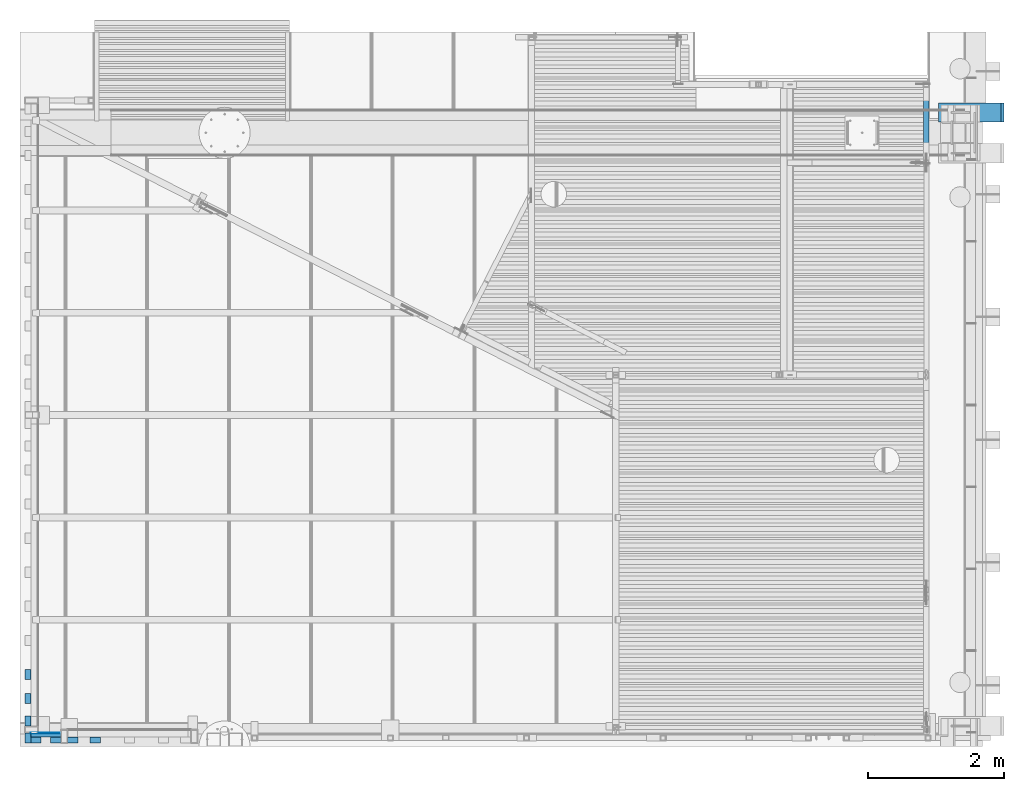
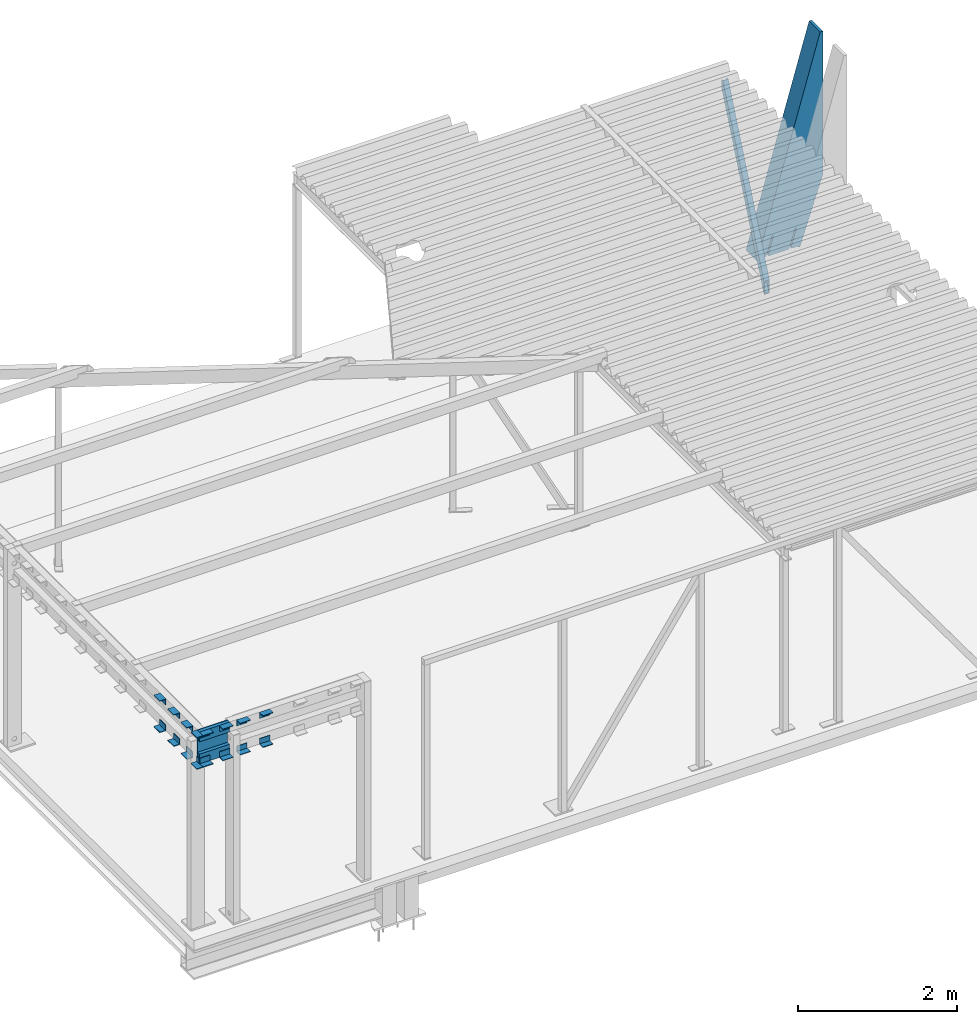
# One storey, part 15 of 30: 20 beams, 1 member.
"""IFC2X3 building model written with IfcOpenShell, lengths in millimetres."""

from ifc_helpers import new_model, entity, si_unit, converted_unit, derived_unit, direction, frame, origin_with_axes, place, context, subcontext, project, spatial, faceted_brep, material, type_object, element, save


model = new_model("IFC2X3")

# Units and contexts
model_context = context("Model", 3, precision=0.01, world=frame((0.0, 4.29681676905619e-09, 0.0)), true_north=direction((4.01073788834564e-13, 1.0)))
plan_context = context("Plan", 3, precision=0.01, world=frame((0.0, 4.29681676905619e-09, 0.0)), true_north=direction((4.01073788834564e-13, 1.0)))
body_context = subcontext(model_context, "Body", "Model", "MODEL_VIEW")
ifc_project = project(units=[converted_unit("PLANEANGLEUNIT", "DEGREE", entity("IfcPositiveLengthMeasure", 0.0174532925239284), si_unit("PLANEANGLEUNIT", "RADIAN"), dimensions=[0, 0, 0, 0, 0, 0, 0]), si_unit("AREAUNIT", "SQUARE_METRE"), si_unit("LENGTHUNIT", "METRE", prefix="MILLI"), si_unit("MASSUNIT", "GRAM", prefix="KILO"), si_unit("POWERUNIT", "WATT"), si_unit("PRESSUREUNIT", "PASCAL"), si_unit("FORCEUNIT", "NEWTON", prefix="KILO"), si_unit("ELECTRICVOLTAGEUNIT", "VOLT"), si_unit("ELECTRICCURRENTUNIT", "AMPERE"), si_unit("THERMODYNAMICTEMPERATUREUNIT", "DEGREE_CELSIUS"), si_unit("TIMEUNIT", "SECOND"), si_unit("VOLUMEUNIT", "CUBIC_METRE"), derived_unit("LINEARVELOCITYUNIT", [(si_unit("LENGTHUNIT", "METRE"), 1), (si_unit("TIMEUNIT", "SECOND"), -1)]), derived_unit("VOLUMETRICFLOWRATEUNIT", [(si_unit("VOLUMEUNIT", "CUBIC_METRE"), 1), (si_unit("TIMEUNIT", "SECOND"), -1)]), derived_unit("THERMALTRANSMITTANCEUNIT", [(si_unit("POWERUNIT", "WATT"), 1), (si_unit("THERMODYNAMICTEMPERATUREUNIT", "KELVIN"), -1), (si_unit("AREAUNIT", "SQUARE_METRE"), -1)]), derived_unit("SOUNDPRESSUREUNIT", [(si_unit("PRESSUREUNIT", "PASCAL"), 1)])], contexts=[model_context, plan_context])

# Site, building, storey
site_placement = place(None, frame((0.0, -4.29681676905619e-09, 0.0), z_axis=(0.0, 0.0, 1.0), x_axis=(1.0, 0.0, 0.0)))
site = spatial("IfcSite", under=ifc_project, at=site_placement, Name="Gardermoen", CompositionType="ELEMENT")
building_placement = place(site_placement, frame((0.0, 4.29681676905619e-09, 0.0), z_axis=(0.0, 0.0, 1.0), x_axis=(1.0, 0.0, 0.0)))
building = spatial("IfcBuilding", under=site, at=building_placement, Name="TI", CompositionType="ELEMENT")
storey_placement = place(building_placement, origin_with_axes())
storey = spatial("IfcBuildingStorey", under=building, at=storey_placement, Name="F", CompositionType="ELEMENT", Elevation=0.0)

# Beams
beam_type_1 = type_object("IfcBeamType", Name="PL280*4267", PredefinedType="NOTDEFINED")
beam_1_placement = place(storey_placement, frame((611580.926887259, 698299.999863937, 220824.676036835), z_axis=(0.730066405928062, 0.0, 0.683376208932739), x_axis=(0.683376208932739, 0.0, -0.730066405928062)))
element("IfcBeam", 1, at=beam_1_placement, inside=storey, type_object=beam_type_1, Name="TREBJELKE", ObjectType="PL280*4267", context=body_context, shape_type="Brep", body=[
    faceted_brep([(7390.09727369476, 12.4996687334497, -6451.60250179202), (7199.64235973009, 12.4996687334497, -6655.06983461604), (7181.80062851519, 12.4996687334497, -6653.08312884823), (7163.00325317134, 12.4996687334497, -6621.04594817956), (7373.96174574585, 12.4996687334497, -6395.6741742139), (7392.75664105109, 12.4996687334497, -6427.71400436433), (7163.00325317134, -12.5003312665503, -6621.04594817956), (7373.96174574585, -12.5003312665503, -6395.6741742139), (7181.80062851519, -12.5003312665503, -6653.08312884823), (7199.64235973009, -12.5003312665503, -6655.06983461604), (7390.09727369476, -12.5003312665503, -6451.60250179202), (7392.75664105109, -12.5003312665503, -6427.71400436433), (7501.75748012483, -140.0, -6332.31335397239), (7501.75748012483, 119.957864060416, -6332.31335397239), (7427.70337700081, 119.957864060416, -6411.42704305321), (7427.70337700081, -140.0, -6411.42704305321), (7409.86164578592, 119.957864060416, -6409.4403372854), (7409.86164578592, -140.0, -6409.4403372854), (7265.45024865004, 119.957864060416, -6163.3139665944), (7265.45024865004, -140.0, -6163.3139665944), (7244.75066318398, 119.957864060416, -6175.45883032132), (7244.75066318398, -140.0, -6175.45883032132), (5388.53709033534, 140.0, -3937.34241097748), (5388.53709033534, -140.0, -3937.34241097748), (7097.93798790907, -140.0, -6794.45312545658), (7097.93798790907, 140.0, -6794.45312545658), (7020.52914718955, 140.0, -5408.53504620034), (5416.68961053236, 140.0, -3907.26643091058), (7523.88720665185, 140.0, -6339.40136764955), (7020.52914718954, -140.0, -5408.53504620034), (7523.88720665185, -140.0, -6339.40136764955), (7517.08880780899, 119.957864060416, -6346.6641917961), (7517.08880780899, -140.0, -6346.6641917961), (7110.48006061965, -140.0, -6781.0541286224), (7110.47979669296, 119.957864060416, -6781.05388157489), (7035.85420037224, -140.0, -6404.34031232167), (7035.85420037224, 119.957864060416, -6404.34031232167), (7015.15429217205, 119.957864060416, -6416.4861906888), (7015.15429217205, -140.0, -6416.4861906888), (7164.69563942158, 119.957864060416, -6671.35677921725), (7164.69563942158, -140.0, -6671.35677921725), (7162.03625121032, 119.957864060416, -6695.24529892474), (7162.03625121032, -140.0, -6695.24529892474), (7095.14846900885, 119.957864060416, -6766.7030437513), (7095.14846900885, -140.0, -6766.7030437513), (7181.80062851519, 119.957864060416, -6653.08312884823), (7199.64235973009, 119.957864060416, -6655.06983461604), (7390.09727369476, 119.957864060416, -6451.60250179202), (7392.75664105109, 119.957864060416, -6427.71400436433), (5416.68961053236, -140.0, -3907.26643091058), (7392.75664105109, -140.0, -6427.71400436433), (7390.09727369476, -140.0, -6451.60250179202), (7199.64235973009, -140.0, -6655.06983461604), (7181.80062851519, -140.0, -6653.08312884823)], [[[0, 1, 2, 3, 4, 5]], [[4, 3, 6, 7]], [[7, 6, 8, 9, 10, 11]], [[12, 13, 14, 15]], [[15, 14, 16, 17]], [[17, 16, 18, 19]], [[19, 18, 20, 21]], [[22, 23, 24, 25]], [[26, 27, 22, 25, 28]], [[29, 26, 28, 30]], [[31, 32, 30, 28, 25, 24, 33, 34]], [[35, 36, 37, 38]], [[38, 37, 39, 40]], [[40, 39, 41, 42]], [[42, 41, 43, 44]], [[44, 43, 34, 33]], [[34, 43, 41, 39, 37, 36, 45, 46, 47, 48, 20, 18, 16, 14, 13, 31]], [[31, 13, 12, 32]], [[23, 49, 29, 30, 32, 12, 15, 17, 19, 21, 50, 51, 52, 53, 35, 38, 40, 42, 44, 33, 24]], [[7, 11, 50, 21, 20, 48, 5, 4]], [[0, 5, 48, 47]], [[1, 0, 47, 46]], [[2, 1, 46, 45]], [[8, 6, 3, 2, 45, 36, 35, 53]], [[9, 8, 53, 52]], [[10, 9, 52, 51]], [[11, 10, 51, 50]], [[27, 26, 29, 49]], [[49, 23, 22, 27]]], orient=[[False], [False], [False], [False], [False], [False], [False], [False], [False], [False], [False], [False], [False], [False], [False], [False], [False], [False], [False], [False], [False], [False], [False], [False], [False], [False], [False], [False], [False]]),
])
ifc_material_1 = material(Name="STEEL/S355")
beam_type_2 = type_object("IfcBeamType", Name="PL10*490", PredefinedType="NOTDEFINED")
beam_2_placement = place(storey_placement, frame((598160.000898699, 689195.006260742, 213649.999619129), z_axis=(0.0, 0.0, 1.0), x_axis=(1.0, 0.0, 0.0)))
element("IfcBeam", 2, at=beam_2_placement, inside=storey, type_object=beam_type_2, material=ifc_material_1, Name="STÅLBJELKE", ObjectType="PL10*490", context=body_context, shape_type="Brep", body=[
    faceted_brep([(0.0, 5.0, -245.0), (0.0, 5.0, 245.0), (440.000755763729, 4.99999997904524, 245.0), (440.000755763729, 4.99999997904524, -245.0), (0.0, -5.0, 245.0), (440.000755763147, -5.00000002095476, 245.0), (0.0, -5.0, -245.0), (440.000755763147, -5.00000002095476, -245.0)], [[[0, 1, 2, 3]], [[1, 4, 5, 2]], [[4, 6, 7, 5]], [[6, 0, 3, 7]], [[5, 7, 3, 2]], [[6, 4, 1, 0]]]),
])
beam_type_3 = type_object("IfcBeamType", Name="L90*9", PredefinedType="NOTDEFINED")
for number, where, z_axis, x_axis in (
    (3, (598114.998348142, 689631.002304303, 213449.999618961), (-0.999999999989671, -4.54499979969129e-06, 0.0), (-4.54499979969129e-06, 0.999999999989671, -1.52795109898e-11)),
    (4, (598114.998348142, 689631.002304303, 213849.999618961), (9.05696637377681e-17, -1.5279510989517e-11, -1.0), (-5.9275237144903e-06, 0.999999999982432, -1.52795109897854e-11)),
    (5, (598114.998348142, 689981.002304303, 213449.999618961), (-0.999999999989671, -4.54499979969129e-06, 0.0), (-4.54499979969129e-06, 0.999999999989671, -1.52795109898e-11)),
    (6, (598114.998348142, 689981.002304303, 213849.999618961), (9.05696637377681e-17, -1.5279510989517e-11, -1.0), (-5.9275237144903e-06, 0.999999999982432, -1.52795109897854e-11)),
    (7, (598114.998348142, 689300.002304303, 213449.999618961), (-0.999999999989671, -4.54499979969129e-06, 0.0), (-4.54499979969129e-06, 0.999999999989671, -1.52795109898e-11)),
    (8, (598114.998348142, 689300.002304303, 213849.999618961), (9.05696637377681e-17, -1.5279510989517e-11, -1.0), (-5.9275237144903e-06, 0.999999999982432, -1.52795109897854e-11)),
    (9, (599179.998348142, 689095.002531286, 213449.999618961), (-5.80000057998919e-08, -0.999999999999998, 0.0), (-0.999999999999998, 5.80000057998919e-08, 0.0)),
    (10, (599179.998348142, 689095.002531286, 213849.999618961), (0.0, 0.0, -1.0), (-0.999999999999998, 5.80000057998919e-08, 0.0)),
    (11, (598849.998348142, 689095.002531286, 213449.999618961), (-5.80000057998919e-08, -0.999999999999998, 0.0), (-0.999999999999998, 5.80000057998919e-08, 0.0)),
    (12, (598849.998348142, 689095.002531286, 213849.999618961), (0.0, 0.0, -1.0), (-0.999999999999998, 5.80000057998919e-08, 0.0)),
    (13, (598599.998348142, 689095.002531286, 213449.999618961), (-5.80000057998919e-08, -0.999999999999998, 0.0), (-0.999999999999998, 5.80000057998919e-08, 0.0)),
    (14, (598599.998348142, 689095.002531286, 213849.999618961), (0.0, 0.0, -1.0), (-0.999999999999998, 5.80000057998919e-08, 0.0)),
):
    element("IfcBeam", number, at=place(storey_placement, frame(where, z_axis=z_axis, x_axis=x_axis)), inside=storey, type_object=beam_type_3, material=ifc_material_1, Name="STÅLBJELKE", ObjectType="L90*9", context=body_context, shape_type="Brep", body=[
        faceted_brep([(0.0, 45.0, -45.0), (0.0, 45.0, 45.0), (149.99878331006, 45.0, 45.0000000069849), (149.998783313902, 45.0, -44.9999999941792), (8.14907252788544e-10, 36.0, 44.9999999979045), (149.99878331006, 36.0, 45.0000000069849), (-4.65661287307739e-10, 36.0, -35.9999999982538), (149.998783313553, 36.0, -35.9999999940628), (-4.65661287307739e-10, -45.0, -35.9999999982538), (149.998783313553, -45.0, -35.9999999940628), (0.0, -45.0, -45.0), (149.998783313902, -45.0, -44.9999999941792)], [[[0, 1, 2, 3]], [[1, 4, 5, 2]], [[4, 6, 7, 5]], [[6, 8, 9, 7]], [[8, 10, 11, 9]], [[10, 0, 3, 11]], [[5, 7, 9, 11, 3, 2]], [[10, 8, 6, 4, 1, 0]]]),
    ])
beam_3_placement = place(storey_placement, frame((598114.998348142, 689050.002304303, 213449.999618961), z_axis=(-0.999999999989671, -4.54499979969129e-06, 0.0), x_axis=(-4.54499979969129e-06, 0.999999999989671, -1.52795109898e-11)))
element("IfcBeam", 15, at=beam_3_placement, inside=storey, type_object=beam_type_3, material=ifc_material_1, Name="STÅLBJELKE", ObjectType="L90*9", context=body_context, shape_type="Brep", body=[
    faceted_brep([(-4.65661287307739e-10, 36.0, -35.9999999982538), (2.09547579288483e-09, 35.9999999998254, -45.0000000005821), (80.9999999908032, 35.9999999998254, -44.9999999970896), (81.00004536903, 36.0, -35.9999999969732), (81.00004536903, -45.0000000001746, -35.9999999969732), (80.9999999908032, -45.0, -44.9999999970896), (149.998783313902, -45.0, -44.9999999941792), (149.998783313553, -45.0, -35.9999999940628), (0.0, 45.0, -45.0), (149.998783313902, 45.0, -44.9999999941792), (8.14907252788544e-10, 36.0, 44.9999999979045), (0.0, 45.0, 45.0), (81.0004537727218, 36.0, 45.0000000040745), (149.99878331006, 36.0, 45.0000000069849), (149.99878331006, 45.0, 45.0000000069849), (149.998783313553, 36.0, -35.9999999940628)], [[[0, 1, 2, 3]], [[4, 3, 2, 5]], [[6, 7, 4, 5]], [[1, 8, 9, 6, 5, 2]], [[10, 11, 8, 1, 0]], [[11, 10, 12, 13, 14]], [[8, 11, 14, 9]], [[13, 15, 7, 6, 9, 14]], [[12, 10, 0, 3, 15, 13]], [[7, 15, 3, 4]]]),
])
beam_4_placement = place(storey_placement, frame((598114.998348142, 689050.002304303, 213849.999618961), z_axis=(9.05696637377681e-17, -1.5279510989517e-11, -1.0), x_axis=(-5.9275237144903e-06, 0.999999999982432, -1.52795109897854e-11)))
element("IfcBeam", 16, at=beam_4_placement, inside=storey, type_object=beam_type_3, material=ifc_material_1, Name="STÅLBJELKE", ObjectType="L90*9", context=body_context, shape_type="Brep", body=[
    faceted_brep([(80.9986992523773, 35.9999999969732, -36.0), (80.99873792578, 44.9996519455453, -36.0), (1.97906047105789e-09, 45.0000000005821, -36.0), (-4.65661287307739e-10, 36.0, -35.9999999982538), (80.9986992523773, 35.9996519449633, 45.0), (80.99873792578, 44.999999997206, 45.0), (-4.65661287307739e-10, -45.0, -35.9999999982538), (0.0, -45.0, -45.0), (149.998783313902, -45.0, -44.9999999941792), (149.998783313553, -45.0, -35.9999999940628), (0.0, 45.0, -45.0), (149.998783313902, 45.0, -44.9999999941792), (149.99878331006, 36.0, 45.0000000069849), (149.998783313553, 36.0, -35.9999999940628), (149.99878331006, 45.0, 45.0000000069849)], [[[0, 1, 2, 3]], [[4, 5, 1, 0]], [[6, 7, 8, 9]], [[7, 10, 11, 8]], [[12, 13, 9, 8, 11, 14]], [[13, 12, 4, 0]], [[6, 9, 13, 0, 3]], [[10, 7, 6, 3, 2]], [[14, 11, 10, 2, 1, 5]], [[12, 14, 5, 4]]]),
])
for number, where, z_axis, x_axis in (
    (17, (598309.998348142, 689095.002531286, 213449.999618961), (-5.80000057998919e-08, -0.999999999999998, 0.0), (-0.999999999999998, 5.80000057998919e-08, 0.0)),
    (18, (598309.998348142, 689095.002531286, 213849.999618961), (0.0, 0.0, -1.0), (-0.999999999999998, 5.80000057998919e-08, 0.0)),
):
    element("IfcBeam", number, at=place(storey_placement, frame(where, z_axis=z_axis, x_axis=x_axis)), inside=storey, type_object=beam_type_3, material=ifc_material_1, Name="STÅLBJELKE", ObjectType="L90*9", context=body_context, shape_type="Brep", body=[
        faceted_brep([(0.0, 45.0, -45.0), (0.0, 45.0, 45.0), (149.99878331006, 45.0, 45.0000000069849), (149.998783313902, 45.0, -44.9999999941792), (8.14907252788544e-10, 36.0, 44.9999999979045), (149.99878331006, 36.0, 45.0000000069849), (-4.65661287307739e-10, 36.0, -35.9999999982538), (149.998783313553, 36.0, -35.9999999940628), (-4.65661287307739e-10, -45.0, -35.9999999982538), (149.998783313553, -45.0, -35.9999999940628), (0.0, -45.0, -45.0), (149.998783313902, -45.0, -44.9999999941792)], [[[0, 1, 2, 3]], [[1, 4, 5, 2]], [[4, 6, 7, 5]], [[6, 8, 9, 7]], [[8, 10, 11, 9]], [[10, 0, 3, 11]], [[5, 7, 9, 11, 3, 2]], [[10, 8, 6, 4, 1, 0]]]),
    ])
beam_type_4 = type_object("IfcBeamType", Name="RHS150*50*5", PredefinedType="NOTDEFINED")
for number, where, z_axis, x_axis in (
    (19, (598160.001646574, 689164.997468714, 213479.999618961), (0.0, 0.0, 1.0), (1.0, 0.0, 0.0)),
    (20, (598160.001646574, 689164.997468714, 213819.999618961), (0.0, 0.0, 1.0), (1.0, 0.0, 0.0)),
):
    element("IfcBeam", number, at=place(storey_placement, frame(where, z_axis=z_axis, x_axis=x_axis)), inside=storey, type_object=beam_type_4, material=ifc_material_1, Name="STÅLBJELKE", ObjectType="RHS150*50*5", context=body_context, shape_type="Brep", body=[
        faceted_brep([(3.49245965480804e-10, 19.9999999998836, -70.0), (-4.65661287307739e-10, -20.0000000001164, -70.0), (440.000003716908, -20.0000000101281, -70.0), (440.00000371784, 19.9999999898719, -70.0), (-4.65661287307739e-10, -20.0000000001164, 70.0), (440.000003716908, -20.0000000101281, 70.0), (3.49245965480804e-10, 19.9999999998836, 70.0), (440.00000371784, 19.9999999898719, 70.0), (1.92085281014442e-09, 25.0000008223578, -74.9999999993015), (4.65661287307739e-10, 24.9999999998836, 75.0), (440.000003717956, 24.9999999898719, 75.0), (440.000003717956, 24.9999999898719, -75.0), (-5.82076609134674e-10, -25.0000000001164, 75.0), (440.000003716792, -25.0000000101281, 75.0), (-5.82076609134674e-10, -25.0000000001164, -75.0), (440.000003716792, -25.0000000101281, -75.0)], [[[0, 1, 2, 3]], [[1, 4, 5, 2]], [[4, 6, 7, 5]], [[6, 0, 3, 7]], [[8, 9, 10, 11]], [[9, 12, 13, 10]], [[12, 14, 15, 13]], [[14, 8, 11, 15]], [[13, 15, 11, 10], [5, 7, 3, 2]], [[14, 12, 9, 8], [6, 4, 1, 0]]]),
    ])

# Member
ifc_material_2 = material(Name="STEEL/S355J2H")
member_type = type_object("IfcMemberType", Name="RHS80*8", PredefinedType="NOTDEFINED")
member_placement = place(storey_placement, frame((611289.64044021, 697556.029755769, 210894.999999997), z_axis=(1.58000038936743e-07, -0.921345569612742, 0.38874457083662), x_axis=(-6.70000059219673e-08, 0.388744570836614, 0.921345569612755)))
element("IfcMember", 21, at=member_placement, inside=storey, type_object=member_type, material=ifc_material_2, Name="STÅLDIAGONAL", ObjectType="RHS80*8", context=body_context, shape_type="Brep", body=[
    faceted_brep([(2770.92813837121, 40.0000001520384, -39.9999998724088), (2770.92813844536, -39.9999998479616, -39.9999998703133), (20.9268208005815, -39.9999999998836, -39.9999999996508), (20.9268207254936, 40.0000000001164, -40.0000000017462), (2875.63124031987, 40.0000001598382, 40.0000001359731), (2888.46390736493, 40.0000001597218, 9.58588766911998), (210.531129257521, 40.0000000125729, 40.0000000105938), (2875.6312402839, -39.9999998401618, 40.0000001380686), (210.531129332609, -39.9999999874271, 40.0000000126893), (2888.46390734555, -39.9999998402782, 9.58588763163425), (2888.46390736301, 32.0000001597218, 9.58588766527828), (2789.89091586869, 32.0000001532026, -31.9999998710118), (2789.89091592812, -31.9999998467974, -31.999999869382), (2888.46390734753, -31.9999998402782, 9.58588763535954), (2879.00669095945, -31.9999998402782, 32.0000001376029), (2879.0066909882, 32.0000001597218, 32.0000001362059), (191.570698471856, -31.9999999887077, 32.0000000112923), (191.570698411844, 32.0000000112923, 32.0000000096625), (39.8872515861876, 32.000000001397, -32.0000000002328), (39.8872516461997, -31.999999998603, -31.999999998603)], [[[0, 1, 2, 3]], [[4, 5, 0, 3, 6]], [[7, 4, 6, 8]], [[1, 9, 7, 8, 2]], [[0, 5, 10, 11, 12, 13, 9, 1]], [[14, 15, 10, 5, 4, 7, 9, 13]], [[15, 14, 16, 17]], [[11, 10, 15, 17, 18]], [[12, 11, 18, 19]], [[14, 13, 12, 19, 16]], [[3, 2, 8, 6], [18, 17, 16, 19]]]),
])

save(model, "model.ifc")
